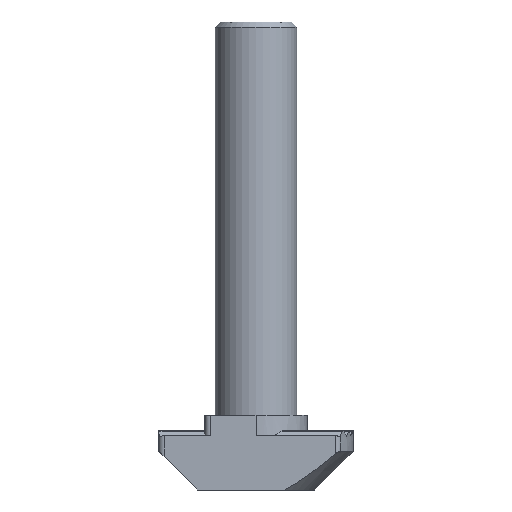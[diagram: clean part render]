
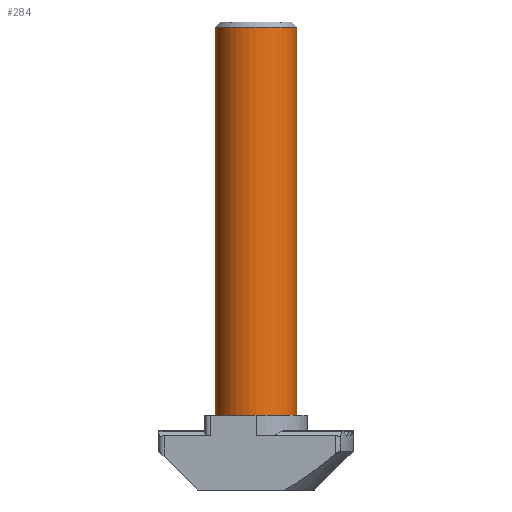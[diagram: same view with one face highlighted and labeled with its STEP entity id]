
A CAD part, front view. The second image highlights one B-rep face of the part: STEP entity #284.
In plain terms, the highlighted cylindrical face has radius 4 mm (diameter 8 mm), a partial arc.
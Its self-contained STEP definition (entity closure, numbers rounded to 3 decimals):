
#284=ADVANCED_FACE('NONE',(#563),#564,.T.);
#563=FACE_OUTER_BOUND('',#833,.T.);
#564=CYLINDRICAL_SURFACE('',#834,4.0);
#833=EDGE_LOOP('',(#1674,#1675,#1676,#1677));
#834=AXIS2_PLACEMENT_3D('',#1678,#1679,#1680);
#1674=ORIENTED_EDGE('',*,*,#1754,.F.);
#1675=ORIENTED_EDGE('',*,*,#2015,.T.);
#1676=ORIENTED_EDGE('',*,*,#1756,.T.);
#1677=ORIENTED_EDGE('',*,*,#1770,.T.);
#1678=CARTESIAN_POINT('',(0.0,0.0,-1.509));
#1679=DIRECTION('',(0.0,0.0,1.0));
#1680=DIRECTION('',(-1.0,0.0,0.0));
#1754=EDGE_CURVE('NONE',#2146,#2148,#2149,.T.);
#1756=EDGE_CURVE('NONE',#2145,#2150,#2152,.T.);
#1770=EDGE_CURVE('NONE',#2150,#2148,#2176,.T.);
#2015=EDGE_CURVE('NONE',#2146,#2145,#2515,.T.);
#2145=VERTEX_POINT('NONE',#2735);
#2146=VERTEX_POINT('NONE',#2736);
#2148=VERTEX_POINT('NONE',#2738);
#2149=LINE('',#2739,#2740);
#2150=VERTEX_POINT('NONE',#2741);
#2152=LINE('',#2743,#2744);
#2176=CIRCLE('',#2774,4.0);
#2515=CIRCLE('',#3735,4.0);
#2735=CARTESIAN_POINT('',(-4.0,0.0,45.307));
#2736=CARTESIAN_POINT('',(4.0,0.,45.307));
#2738=CARTESIAN_POINT('',(4.0,0.,7.3));
#2739=CARTESIAN_POINT('',(4.0,0.,-1.509));
#2740=VECTOR('',#3811,1000.0);
#2741=CARTESIAN_POINT('',(-4.0,0.0,7.3));
#2743=CARTESIAN_POINT('',(-4.0,0.0,-1.509));
#2744=VECTOR('',#3815,1000.0);
#2774=AXIS2_PLACEMENT_3D('',#3837,#3838,#3839);
#3735=AXIS2_PLACEMENT_3D('',#3993,#3994,#3995);
#3811=DIRECTION('',(-0.0,-0.0,-1.0));
#3815=DIRECTION('',(-0.0,-0.0,-1.0));
#3837=CARTESIAN_POINT('',(0.0,0.0,7.3));
#3838=DIRECTION('',(0.0,0.0,1.0));
#3839=DIRECTION('',(-1.0,0.0,0.0));
#3993=CARTESIAN_POINT('',(0.0,0.0,45.307));
#3994=DIRECTION('',(0.0,0.0,-1.0));
#3995=DIRECTION('',(-1.0,0.0,0.0));
